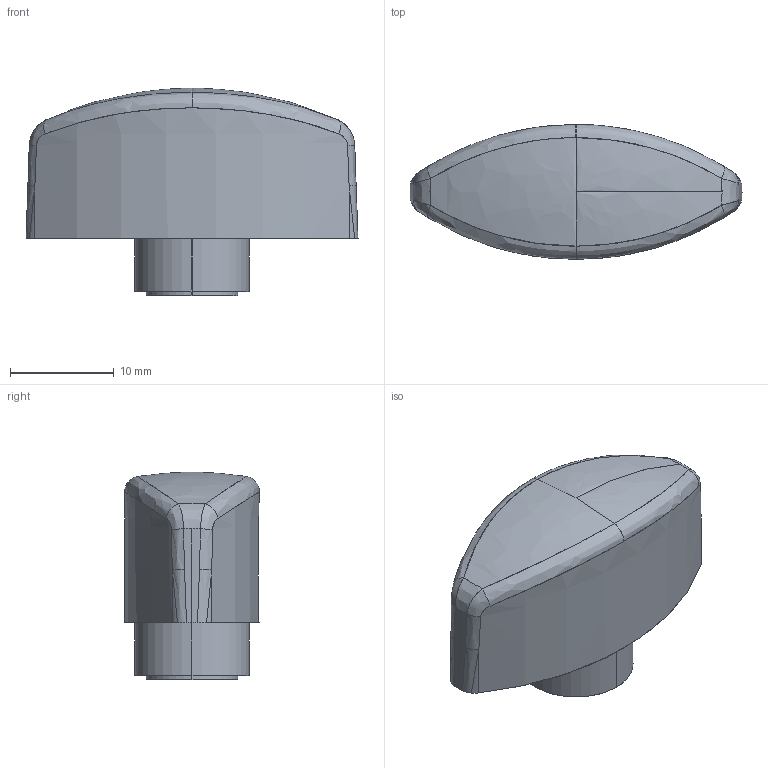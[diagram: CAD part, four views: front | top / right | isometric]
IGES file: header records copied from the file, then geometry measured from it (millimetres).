
Start section: SolidWorks IGES file using analytic representation for surfaces
Global section: file name: X:\11_SW2020-Inv2020\00_全2021-11新製品まで\l\LKH6\lkh6.IGS; native system: SolidWorks 2020; preprocessor: SolidWorks 2020; author: ImaoCorp; date: 211025.115240; units: millimetre
Bounding box: 32 x 13 x 20 mm (x, y, z)
Surface area: 2760.3 mm2 (no closed solid volume)
Topology: 0 solids, 0 shells, 64 faces, 658 edges, 655 vertices
Faces by surface type: revolution 37, bspline 27
